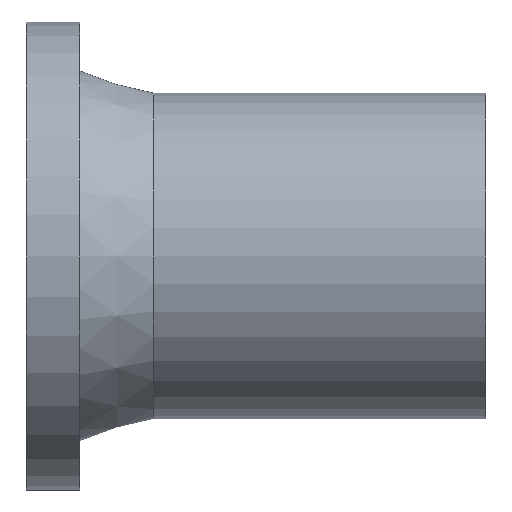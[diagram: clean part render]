
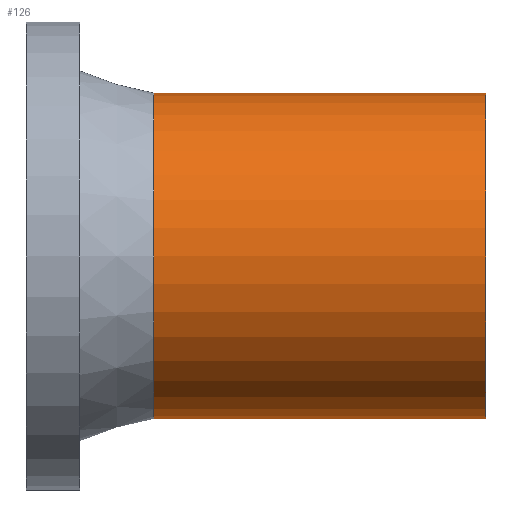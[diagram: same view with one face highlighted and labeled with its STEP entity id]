
A CAD part, front view. The second image highlights one B-rep face of the part: STEP entity #126.
In plain terms, the highlighted cylindrical face has radius 55 mm (diameter 110 mm), a full revolution.
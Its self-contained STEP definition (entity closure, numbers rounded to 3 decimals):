
#77=CARTESIAN_POINT('',(43.,55.,0.));
#78=VERTEX_POINT('',#77);
#79=CARTESIAN_POINT('',(43.,0.,0.));
#80=DIRECTION('',(1.,0.,0.));
#81=DIRECTION('',(0.,1.,0.));
#82=AXIS2_PLACEMENT_3D('',#79,#80,#81);
#83=CIRCLE('',#82,55.);
#84=EDGE_CURVE('',#78,#78,#83,.T.);
#102=CARTESIAN_POINT('',(155.,55.,0.));
#103=VERTEX_POINT('',#102);
#104=CARTESIAN_POINT('',(155.,0.,0.));
#105=DIRECTION('',(1.,0.,0.));
#106=DIRECTION('',(0.,1.,0.));
#107=AXIS2_PLACEMENT_3D('',#104,#105,#106);
#108=CIRCLE('',#107,55.);
#109=EDGE_CURVE('',#103,#103,#108,.T.);
#110=ORIENTED_EDGE('',*,*,#109,.F.);
#111=CARTESIAN_POINT('',(99.,55.,0.));
#112=DIRECTION('',(1.,0.,0.));
#113=VECTOR('',#112,55.);
#114=LINE('',#111,#113);
#115=EDGE_CURVE('',#78,#103,#114,.T.);
#116=ORIENTED_EDGE('',*,*,#115,.F.);
#117=ORIENTED_EDGE('',*,*,#84,.T.);
#118=ORIENTED_EDGE('',*,*,#115,.T.);
#119=EDGE_LOOP('',(#110,#116,#117,#118));
#120=FACE_OUTER_BOUND('',#119,.T.);
#121=CARTESIAN_POINT('',(99.,0.,0.));
#122=DIRECTION('',(1.,0.,0.));
#123=DIRECTION('',(0.,1.,0.));
#124=AXIS2_PLACEMENT_3D('',#121,#122,#123);
#125=CYLINDRICAL_SURFACE('',#124,55.);
#126=ADVANCED_FACE('',(#120),#125,.T.);
